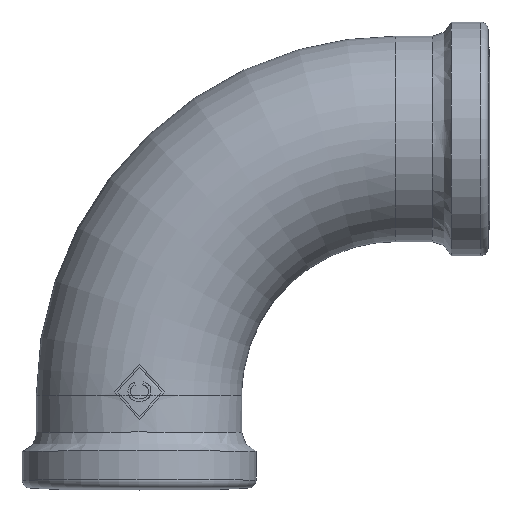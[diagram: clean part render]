
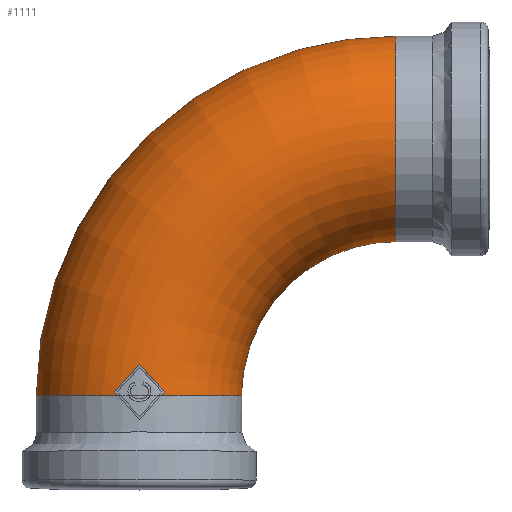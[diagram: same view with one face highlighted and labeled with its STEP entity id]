
A CAD part, top view. The second image highlights one B-rep face of the part: STEP entity #1111.
In plain terms, the highlighted toroidal (fillet/blend) face has major radius 32.5 mm and minor radius 13 mm.
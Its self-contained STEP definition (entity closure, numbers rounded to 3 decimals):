
#808=CARTESIAN_POINT('',(3.206,12.37,12.599));
#809=VERTEX_POINT('',#808);
#816=CARTESIAN_POINT('',(0.057,15.869,12.999));
#817=VERTEX_POINT('',#816);
#818=CARTESIAN_POINT('',(0.057,15.869,12.999));
#819=CARTESIAN_POINT('',(0.239,15.667,13.002));
#820=CARTESIAN_POINT('',(0.418,15.468,13.));
#821=CARTESIAN_POINT('',(0.601,15.264,12.993));
#822=CARTESIAN_POINT('',(1.437,14.336,12.963));
#823=CARTESIAN_POINT('',(2.324,13.35,12.827));
#824=CARTESIAN_POINT('',(3.206,12.37,12.599));
#825=B_SPLINE_CURVE_WITH_KNOTS('',3,(#818,#819,#820,#821,#822,#823,#824),.UNSPECIFIED.,.F.,.U.,(4,3,4),(15.758,15.839,16.206),.UNSPECIFIED.);
#826=EDGE_CURVE('',#817,#809,#825,.T.);
#861=CARTESIAN_POINT('',(2.783,11.9,12.699));
#862=VERTEX_POINT('',#861);
#870=CARTESIAN_POINT('',(3.206,12.37,12.599));
#871=CARTESIAN_POINT('',(3.065,12.214,12.635));
#872=CARTESIAN_POINT('',(2.924,12.057,12.668));
#873=CARTESIAN_POINT('',(2.783,11.9,12.699));
#874=B_SPLINE_CURVE_WITH_KNOTS('',3,(#870,#871,#872,#873),.UNSPECIFIED.,.F.,.U.,(4,4),(1.886,1.944),.UNSPECIFIED.);
#875=EDGE_CURVE('',#809,#862,#874,.T.);
#906=CARTESIAN_POINT('',(-3.092,12.37,12.626));
#907=VERTEX_POINT('',#906);
#908=CARTESIAN_POINT('',(-3.092,12.37,12.626));
#909=CARTESIAN_POINT('',(-2.111,13.46,12.863));
#910=CARTESIAN_POINT('',(-1.105,14.578,12.971));
#911=CARTESIAN_POINT('',(-0.169,15.618,12.994));
#912=CARTESIAN_POINT('',(-0.093,15.702,12.996));
#913=CARTESIAN_POINT('',(-0.018,15.786,12.998));
#914=CARTESIAN_POINT('',(0.057,15.869,12.999));
#915=B_SPLINE_CURVE_WITH_KNOTS('',3,(#908,#909,#910,#911,#912,#913,#914),.UNSPECIFIED.,.F.,.U.,(4,3,4),(14.186,14.595,14.628),.UNSPECIFIED.);
#916=EDGE_CURVE('',#907,#817,#915,.T.);
#942=CARTESIAN_POINT('',(-2.668,11.9,12.723));
#943=VERTEX_POINT('',#942);
#944=CARTESIAN_POINT('',(-2.668,11.9,12.723));
#945=CARTESIAN_POINT('',(-2.81,12.057,12.694));
#946=CARTESIAN_POINT('',(-2.951,12.214,12.661));
#947=CARTESIAN_POINT('',(-3.092,12.37,12.626));
#948=B_SPLINE_CURVE_WITH_KNOTS('',3,(#944,#945,#946,#947),.UNSPECIFIED.,.F.,.U.,(4,4),(2.218,2.276),.UNSPECIFIED.);
#949=EDGE_CURVE('',#943,#907,#948,.T.);
#1082=CARTESIAN_POINT('',(32.5,11.9,0.0));
#1083=DIRECTION('',(0.0,0.0,-1.0));
#1084=DIRECTION('',(-1.0,0.0,0.0));
#1085=AXIS2_PLACEMENT_3D('',#1082,#1083,#1084);
#1086=TOROIDAL_SURFACE('',#1085,32.5,13.0);
#1087=CARTESIAN_POINT('',(32.5,57.4,0.));
#1088=VERTEX_POINT('',#1087);
#1089=CARTESIAN_POINT('',(32.5,44.4,0.0));
#1090=DIRECTION('',(-1.0,0.0,0.0));
#1091=DIRECTION('',(0.0,-1.0,0.0));
#1092=AXIS2_PLACEMENT_3D('',#1089,#1090,#1091);
#1093=CIRCLE('',#1092,13.0);
#1094=EDGE_CURVE('',#1088,#1088,#1093,.T.);
#1095=ORIENTED_EDGE('',*,*,#1094,.T.);
#1096=EDGE_LOOP('',(#1095));
#1097=FACE_OUTER_BOUND('',#1096,.T.);
#1098=ORIENTED_EDGE('',*,*,#949,.T.);
#1099=ORIENTED_EDGE('',*,*,#916,.T.);
#1100=ORIENTED_EDGE('',*,*,#826,.T.);
#1101=ORIENTED_EDGE('',*,*,#875,.T.);
#1102=CARTESIAN_POINT('',(0.0,11.9,0.0));
#1103=DIRECTION('',(0.0,-1.0,0.0));
#1104=DIRECTION('',(1.0,0.0,0.0));
#1105=AXIS2_PLACEMENT_3D('',#1102,#1103,#1104);
#1106=CIRCLE('',#1105,13.0);
#1107=EDGE_CURVE('',#943,#862,#1106,.T.);
#1108=ORIENTED_EDGE('',*,*,#1107,.F.);
#1109=EDGE_LOOP('',(#1098,#1099,#1100,#1101,#1108));
#1110=FACE_BOUND('',#1109,.T.);
#1111=ADVANCED_FACE('',(#1097,#1110),#1086,.T.);
